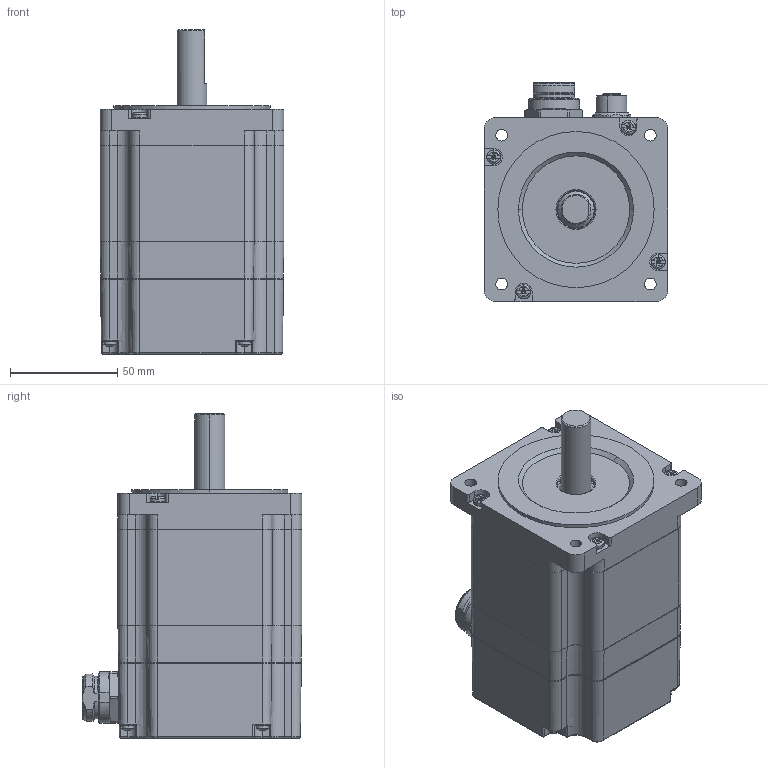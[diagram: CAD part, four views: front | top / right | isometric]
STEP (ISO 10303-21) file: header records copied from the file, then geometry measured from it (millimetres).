
FILE_DESCRIPTION (( 'STEP AP214' ), '1' );
FILE_NAME ('M86SH80-TO0512P24C.STEP', '2025-05-24T08:46:07', ( '' ), ( '' ), 'SwSTEP 2.0', 'SolidWorks 2019', '' );
FILE_SCHEMA (( 'AUTOMOTIVE_DESIGN' ));
Length unit declared in the file: millimetre
Products named in the file (1): M86SH80-TO0512P24C
Bounding box: 85.9 x 102.59 x 151.5 mm (x, y, z)
Surface area: 166236.7 mm2 (no closed solid volume)
Topology: 0 solids, 34 shells, 2053 faces, 5200 edges, 3302 vertices
Faces by surface type: plane 813, cylinder 564, bspline 255, cone 245, torus 160, sphere 16
Entity records: 97019 total; most frequent: CARTESIAN_POINT 27296, ORIENTED_EDGE 10280, DIRECTION 8827, EDGE_CURVE 5144, AXIS2_PLACEMENT_3D 3388, VERTEX_POINT 3302, EDGE_LOOP 2348, UNCERTAINTY_MEASURE_WITH_UNIT 2086
